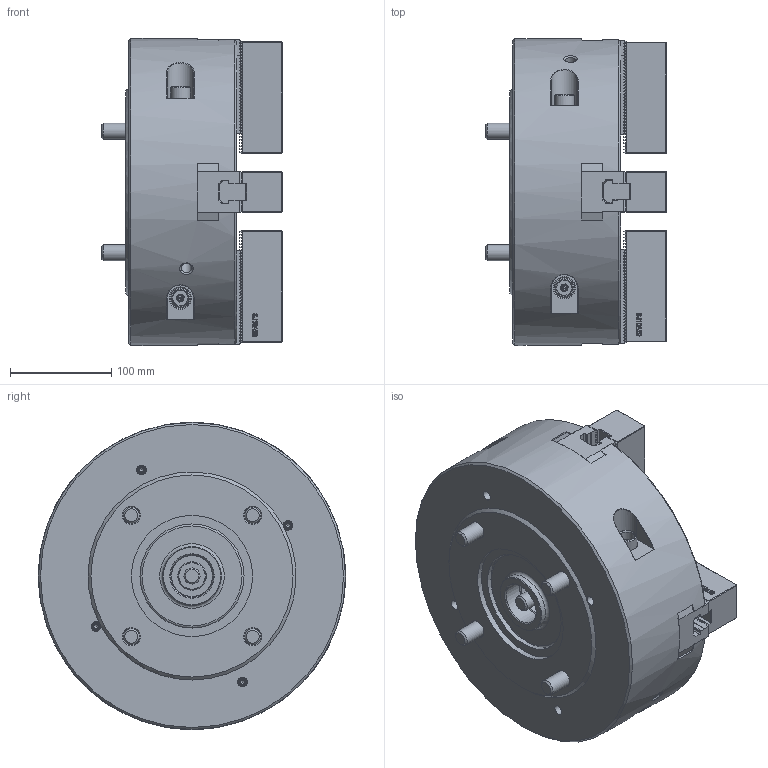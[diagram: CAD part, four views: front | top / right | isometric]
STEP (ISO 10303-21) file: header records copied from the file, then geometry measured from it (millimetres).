
FILE_DESCRIPTION (( 'STEP AP214' ), '1' );
FILE_NAME ('DT1_HW-12_OUTSIDE_VIEW_HOL.STEP', '2024-05-10T00:27:42', ( '' ), ( '' ), 'SwSTEP 2.0', 'SolidWorks 2022', '' );
FILE_SCHEMA (( 'AUTOMOTIVE_DESIGN' ));
Length unit declared in the file: millimetre
Products named in the file (10): DT1_HW-12_TNUT^DT1_HW-12_ﾃﾞﾌｫﾙﾄ; DT1_HW-12_BASE^DT1_HW-12_ﾃﾞﾌｫﾙﾄ; DT1_HW-12_SOFTJAW^DT1_HW-12_ﾃﾞﾌｫﾙﾄ; DT1_HW-12_M12x35^DT1_HW-12_ﾃﾞﾌｫﾙﾄ; DT1_HW-12_M5x10^DT1_HW-12_ﾃﾞﾌｫﾙﾄ; DT1_HW-12_DRAWSCREW^DT1_HW-12_ﾃﾞﾌｫﾙﾄ; DT1_HW-12_M16x115^DT1_HW-12_ﾃﾞﾌｫﾙﾄ; DT1_HW-12_OUTSIDE_VIEW_HOL; DT1_HW-12_COVER^DT1_HW-12_ﾃﾞﾌｫﾙﾄ; DT1_HW-12_DN^DT1_HW-12_ﾃﾞﾌｫﾙﾄ
Assembly tree (28 placements, depth 2):
  DT1_HW-12_OUTSIDE_VIEW_HOL
    DT1_HW-12_SOFTJAW^DT1_HW-12_ﾃﾞﾌｫﾙﾄ  x4
    DT1_HW-12_TNUT^DT1_HW-12_ﾃﾞﾌｫﾙﾄ  x4
    DT1_HW-12_COVER^DT1_HW-12_ﾃﾞﾌｫﾙﾄ
    DT1_HW-12_DRAWSCREW^DT1_HW-12_ﾃﾞﾌｫﾙﾄ
    DT1_HW-12_DN^DT1_HW-12_ﾃﾞﾌｫﾙﾄ
    DT1_HW-12_BASE^DT1_HW-12_ﾃﾞﾌｫﾙﾄ
    DT1_HW-12_M16x115^DT1_HW-12_ﾃﾞﾌｫﾙﾄ  x4
    DT1_HW-12_M12x35^DT1_HW-12_ﾃﾞﾌｫﾙﾄ  x8
    DT1_HW-12_M5x10^DT1_HW-12_ﾃﾞﾌｫﾙﾄ  x4
Bounding box: 179 x 304 x 304 mm (x, y, z)
Volume: 8278257.9 mm3; surface area: 586173.4 mm2
Topology: 28 solids, 38 shells, 4765 faces, 13388 edges, 8852 vertices
Faces by surface type: plane 3304, cylinder 760, bspline 387, cone 279, torus 31, sphere 4
Full cylindrical faces by diameter (mm): 2 x4, 4.2 x4, 5 x4, 5.5 x4, 6.8 x4, 8.72 x4, 9.5 x8, 10.2 x10, 12 x8, 13 x8, 13.27 x4, 13.835 x1, 14 x5, 15 x4, 16 x6, 17 x4, 18.27 x8, 19 x8, 19.6 x4, 20.5 x4, 24.33 x5, 25 x5, 28 x1, 40.376 x1, 42 x1, 44 x1, 58 x1, 103 x1, 120 x1, 304 x1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
Entity records: 110837 total; most frequent: CARTESIAN_POINT 32370, ORIENTED_EDGE 17166, DIRECTION 14324, EDGE_CURVE 8583, LINE 6586, VECTOR 6586, VERTEX_POINT 5783, AXIS2_PLACEMENT_3D 3869
